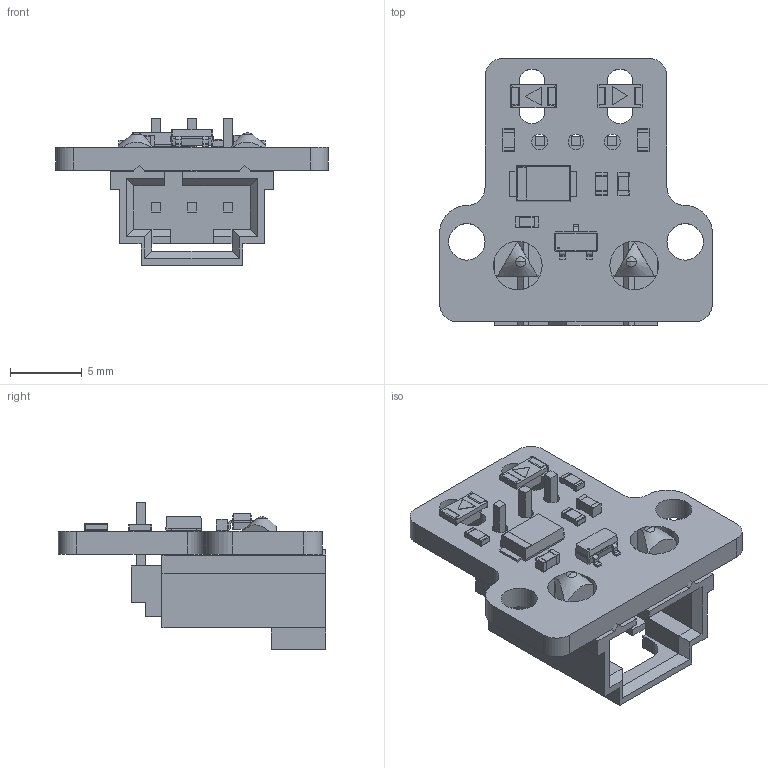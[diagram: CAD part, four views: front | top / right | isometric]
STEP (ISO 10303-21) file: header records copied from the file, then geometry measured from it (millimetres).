
FILE_DESCRIPTION(('KiCad electronic assembly'),'2;1');
FILE_NAME('HallSwitch.step','2024-10-14T22:25:49',('Pcbnew'),('Kicad'), 'Open CASCADE STEP processor 7.6','KiCad to STEP converter','Unknown' );
FILE_SCHEMA(('AUTOMOTIVE_DESIGN { 1 0 10303 214 1 1 1 1 }'));
Length unit declared in the file: millimetre
Products named in the file (16): HallSwitch 1; SOT-23-3; SOT-23; SOT_23; C_0603_1608Metric; LED_1206_3216Metric; R_0603_1608Metric; D_SOD-128; 70555-0037; 1; HallSwitch_PCB
Assembly tree (19 placements, depth 3):
  HallSwitch 1
    SOT-23-3
      SOT-23-3
    SOT-23
      SOT_23
    C_0603_1608Metric  x2
      C_0603_1608Metric
    LED_1206_3216Metric  x2
      LED_1206_3216Metric
    R_0603_1608Metric  x3
      R_0603_1608Metric
    D_SOD-128
      D_SOD-128
    70555-0037
      1
    HallSwitch_PCB
Bounding box: 19.05 x 18.67 x 10.29 mm (x, y, z)
Volume: 851.7 mm3; surface area: 1689 mm2
Topology: 12 solids, 12 shells, 588 faces, 1537 edges, 979 vertices
Faces by surface type: plane 414, cylinder 115, bspline 57, cone 2
Full cylindrical faces by diameter (mm): 1.1 x3, 2.54 x2, 3.404 x2
Entity records: 16175 total; most frequent: CARTESIAN_POINT 2939, ORIENTED_EDGE 2384, DIRECTION 2103, EDGE_CURVE 1192, LINE 927, VECTOR 927, VERTEX_POINT 757, AXIS2_PLACEMENT_3D 588
